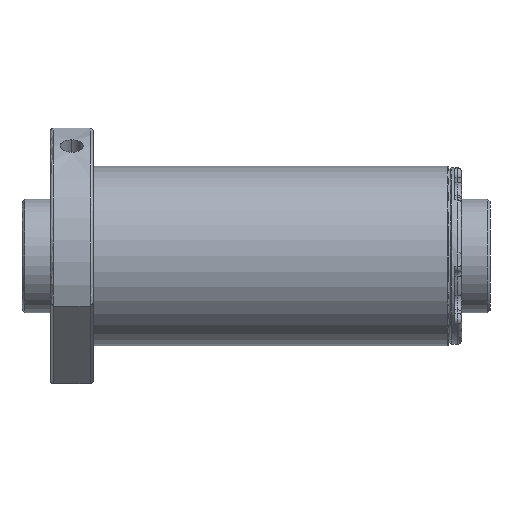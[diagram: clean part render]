
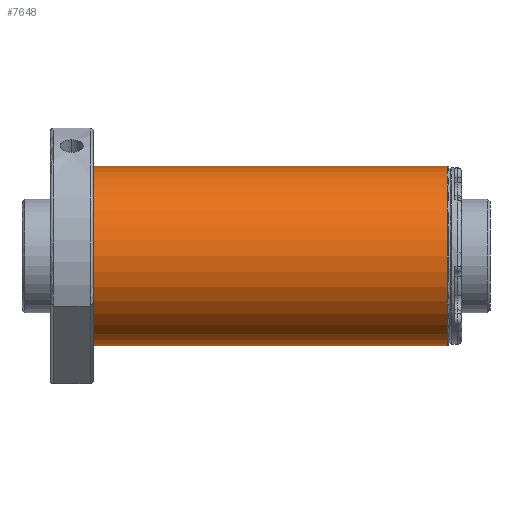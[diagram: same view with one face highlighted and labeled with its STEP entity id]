
A CAD part, front view. The second image highlights one B-rep face of the part: STEP entity #7648.
In plain terms, the highlighted cylindrical face has radius 31.5 mm (diameter 63 mm), a partial arc.
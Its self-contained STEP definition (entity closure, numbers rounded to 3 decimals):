
#342 = VECTOR ( 'NONE', #12542, 1000. ) ;
#983 = CIRCLE ( 'NONE', #7713, 31.5 ) ;
#1515 = AXIS2_PLACEMENT_3D ( 'NONE', #12867, #6421, #10870 ) ;
#1940 = CIRCLE ( 'NONE', #12600, 31.5 ) ;
#2135 = CYLINDRICAL_SURFACE ( 'NONE', #7689, 31.5 ) ;
#2195 = EDGE_CURVE ( 'NONE', #11723, #7255, #9798, .T. ) ;
#2207 = CARTESIAN_POINT ( 'NONE',  ( 100., 0., 31.5 ) ) ;
#2215 = VERTEX_POINT ( 'NONE', #13111 ) ;
#2293 = CARTESIAN_POINT ( 'NONE',  ( 100., 0., 0. ) ) ;
#2833 = DIRECTION ( 'NONE',  ( 0., 0., 1. ) ) ;
#2841 = CARTESIAN_POINT ( 'NONE',  ( 139.5, 0., 31.5 ) ) ;
#4654 = EDGE_CURVE ( 'NONE', #2215, #11323, #7423, .T. ) ;
#5411 = ORIENTED_EDGE ( 'NONE', *, *, #2195, .T. ) ;
#5425 = EDGE_CURVE ( 'NONE', #2215, #10397, #10066, .T. ) ;
#5731 = DIRECTION ( 'NONE',  ( 0., 0., 1. ) ) ;
#6140 = CARTESIAN_POINT ( 'NONE',  ( 100., 0., -31.5 ) ) ;
#6421 = DIRECTION ( 'NONE',  ( -1., 0., 0. ) ) ;
#6523 = CARTESIAN_POINT ( 'NONE',  ( 139.5, -31.5, 0. ) ) ;
#7255 = VERTEX_POINT ( 'NONE', #10725 ) ;
#7423 = CIRCLE ( 'NONE', #1515, 31.5 ) ;
#7648 = ADVANCED_FACE ( 'NONE', ( #9866 ), #2135, .T. ) ;
#7689 = AXIS2_PLACEMENT_3D ( 'NONE', #2293, #9726, #11896 ) ;
#7713 = AXIS2_PLACEMENT_3D ( 'NONE', #13749, #8332, #2833 ) ;
#7762 = DIRECTION ( 'NONE',  ( -1., 0., 0. ) ) ;
#8301 = ORIENTED_EDGE ( 'NONE', *, *, #4654, .T. ) ;
#8332 = DIRECTION ( 'NONE',  ( -1., 0., 0. ) ) ;
#8394 = ORIENTED_EDGE ( 'NONE', *, *, #13787, .T. ) ;
#8851 = CARTESIAN_POINT ( 'NONE',  ( 15., 0., 0. ) ) ;
#9697 = EDGE_LOOP ( 'NONE', ( #10913, #8301, #12637, #5411, #8394 ) ) ;
#9726 = DIRECTION ( 'NONE',  ( -1., 0., 0. ) ) ;
#9798 = LINE ( 'NONE', #2207, #13859 ) ;
#9866 = FACE_OUTER_BOUND ( 'NONE', #9697, .T. ) ;
#10066 = LINE ( 'NONE', #6140, #342 ) ;
#10397 = VERTEX_POINT ( 'NONE', #11591 ) ;
#10725 = CARTESIAN_POINT ( 'NONE',  ( 15., 0., 31.5 ) ) ;
#10870 = DIRECTION ( 'NONE',  ( 0., 0., 1. ) ) ;
#10913 = ORIENTED_EDGE ( 'NONE', *, *, #5425, .F. ) ;
#11323 = VERTEX_POINT ( 'NONE', #6523 ) ;
#11591 = CARTESIAN_POINT ( 'NONE',  ( 15., 0., -31.5 ) ) ;
#11723 = VERTEX_POINT ( 'NONE', #2841 ) ;
#11896 = DIRECTION ( 'NONE',  ( 0., 0., 1. ) ) ;
#12027 = EDGE_CURVE ( 'NONE', #11323, #11723, #983, .T. ) ;
#12542 = DIRECTION ( 'NONE',  ( -1., 0., 0. ) ) ;
#12600 = AXIS2_PLACEMENT_3D ( 'NONE', #8851, #13131, #5731 ) ;
#12637 = ORIENTED_EDGE ( 'NONE', *, *, #12027, .T. ) ;
#12867 = CARTESIAN_POINT ( 'NONE',  ( 139.5, 0., 0. ) ) ;
#13111 = CARTESIAN_POINT ( 'NONE',  ( 139.5, 0., -31.5 ) ) ;
#13131 = DIRECTION ( 'NONE',  ( 1., 0., 0. ) ) ;
#13749 = CARTESIAN_POINT ( 'NONE',  ( 139.5, 0., 0. ) ) ;
#13787 = EDGE_CURVE ( 'NONE', #7255, #10397, #1940, .T. ) ;
#13859 = VECTOR ( 'NONE', #7762, 1000. ) ;
